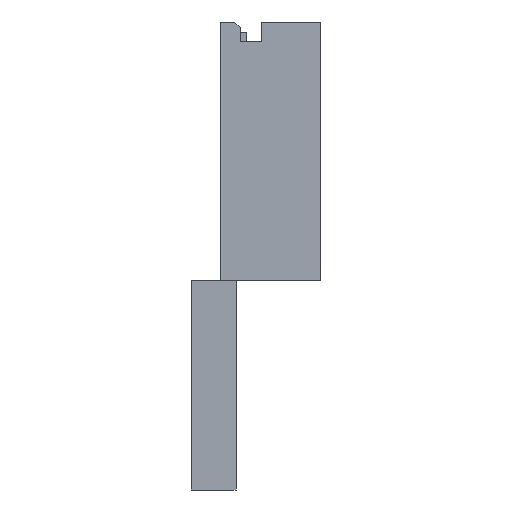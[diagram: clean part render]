
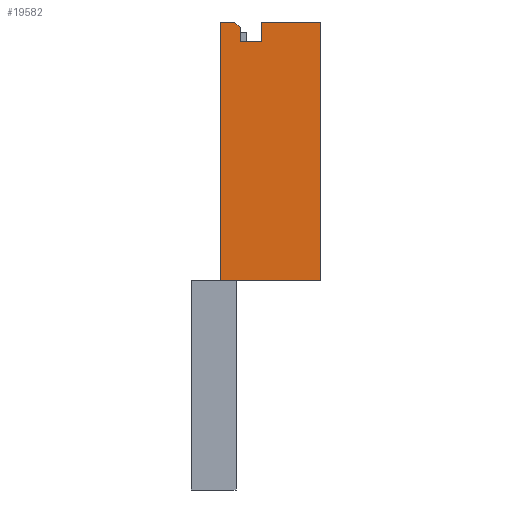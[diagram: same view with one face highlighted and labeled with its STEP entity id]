
A CAD part, left-side view. The second image highlights one B-rep face of the part: STEP entity #19582.
In plain terms, the highlighted planar face has unit normal (-1, 0, 0).
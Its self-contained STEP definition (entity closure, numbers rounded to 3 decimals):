
#539=DIRECTION('',(0.,-1.,0.));
#540=VECTOR('',#539,2.06);
#541=CARTESIAN_POINT('',(-31.065,0.84,-6.285));
#542=LINE('',#541,#540);
#1793=DIRECTION('',(0.,1.,0.));
#1794=VECTOR('',#1793,0.38);
#1795=CARTESIAN_POINT('',(-31.065,0.84,-6.285));
#1796=LINE('',#1795,#1794);
#6809=DIRECTION('',(0.,-1.,0.));
#6810=VECTOR('',#6809,0.35);
#6811=CARTESIAN_POINT('',(-31.065,1.22,0.));
#6812=LINE('',#6811,#6810);
#6861=DIRECTION('',(0.,-1.,0.));
#6862=VECTOR('',#6861,1.45);
#6863=CARTESIAN_POINT('',(-31.065,0.23,0.));
#6864=LINE('',#6863,#6862);
#6869=DIRECTION('',(0.,0.,-1.));
#6870=VECTOR('',#6869,0.48);
#6871=CARTESIAN_POINT('',(-31.065,0.23,0.));
#6872=LINE('',#6871,#6870);
#6873=DIRECTION('',(0.,0.,1.));
#6874=VECTOR('',#6873,6.285);
#6875=CARTESIAN_POINT('',(-31.065,1.22,-6.285));
#6876=LINE('',#6875,#6874);
#6877=DIRECTION('',(0.,0.707,0.707));
#6878=VECTOR('',#6877,0.184);
#6879=CARTESIAN_POINT('',(-31.065,0.74,-0.13));
#6880=LINE('',#6879,#6878);
#6881=DIRECTION('',(0.,0.,1.));
#6882=VECTOR('',#6881,0.35);
#6883=CARTESIAN_POINT('',(-31.065,0.74,-0.48));
#6884=LINE('',#6883,#6882);
#6885=DIRECTION('',(0.,1.,0.));
#6886=VECTOR('',#6885,0.51);
#6887=CARTESIAN_POINT('',(-31.065,0.23,-0.48));
#6888=LINE('',#6887,#6886);
#6889=DIRECTION('',(0.,0.,1.));
#6890=VECTOR('',#6889,6.285);
#6891=CARTESIAN_POINT('',(-31.065,-1.22,-6.285));
#6892=LINE('',#6891,#6890);
#8041=CARTESIAN_POINT('',(-31.065,0.23,-0.48));
#8042=VERTEX_POINT('',#8041);
#8045=CARTESIAN_POINT('',(-31.065,0.74,-0.48));
#8046=VERTEX_POINT('',#8045);
#9055=CARTESIAN_POINT('',(-31.065,-1.22,-6.285));
#9057=VERTEX_POINT('',#9055);
#9059=CARTESIAN_POINT('',(-31.065,-1.22,0.));
#9061=VERTEX_POINT('',#9059);
#9069=CARTESIAN_POINT('',(-31.065,0.84,-6.285));
#9070=VERTEX_POINT('',#9069);
#9071=CARTESIAN_POINT('',(-31.065,1.22,-6.285));
#9072=CARTESIAN_POINT('',(-31.065,1.22,0.));
#9073=VERTEX_POINT('',#9071);
#9074=VERTEX_POINT('',#9072);
#9677=CARTESIAN_POINT('',(-31.065,0.23,0.));
#9678=VERTEX_POINT('',#9677);
#9679=CARTESIAN_POINT('',(-31.065,0.74,-0.13));
#9680=VERTEX_POINT('',#9679);
#9681=CARTESIAN_POINT('',(-31.065,0.87,0.));
#9682=VERTEX_POINT('',#9681);
#19564=CARTESIAN_POINT('',(-31.065,1.22,-6.285));
#19565=DIRECTION('',(-1.,0.,0.));
#19566=DIRECTION('',(0.,-1.,0.));
#19567=AXIS2_PLACEMENT_3D('',#19564,#19565,#19566);
#19568=PLANE('',#19567);
#19569=ORIENTED_EDGE('',*,*,#10778,.F.);
#19570=ORIENTED_EDGE('',*,*,#19556,.T.);
#19572=ORIENTED_EDGE('',*,*,#19571,.F.);
#19573=ORIENTED_EDGE('',*,*,#10404,.F.);
#19574=ORIENTED_EDGE('',*,*,#12002,.T.);
#19575=ORIENTED_EDGE('',*,*,#12087,.T.);
#19576=ORIENTED_EDGE('',*,*,#19516,.T.);
#19577=ORIENTED_EDGE('',*,*,#12574,.F.);
#19578=ORIENTED_EDGE('',*,*,#11803,.F.);
#19579=ORIENTED_EDGE('',*,*,#11259,.F.);
#19580=EDGE_LOOP('',(#19569,#19570,#19572,#19573,#19574,#19575,#19576,#19577,
#19578,#19579));
#19581=FACE_OUTER_BOUND('',#19580,.F.);
#10404=EDGE_CURVE('',#9070,#9057,#542,.T.);
#10778=EDGE_CURVE('',#9678,#8042,#6872,.T.);
#11259=EDGE_CURVE('',#8042,#8046,#6888,.T.);
#11803=EDGE_CURVE('',#8046,#9680,#6884,.T.);
#12002=EDGE_CURVE('',#9070,#9073,#1796,.T.);
#12087=EDGE_CURVE('',#9073,#9074,#6876,.T.);
#12574=EDGE_CURVE('',#9680,#9682,#6880,.T.);
#19516=EDGE_CURVE('',#9074,#9682,#6812,.T.);
#19556=EDGE_CURVE('',#9678,#9061,#6864,.T.);
#19571=EDGE_CURVE('',#9057,#9061,#6892,.T.);
#19582=ADVANCED_FACE('',(#19581),#19568,.T.);
